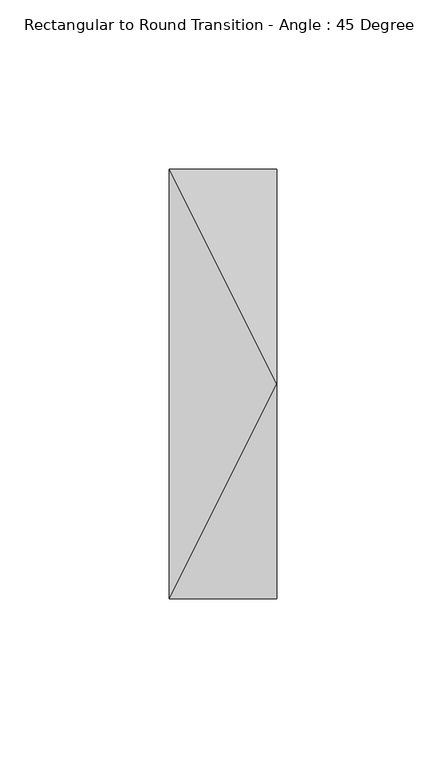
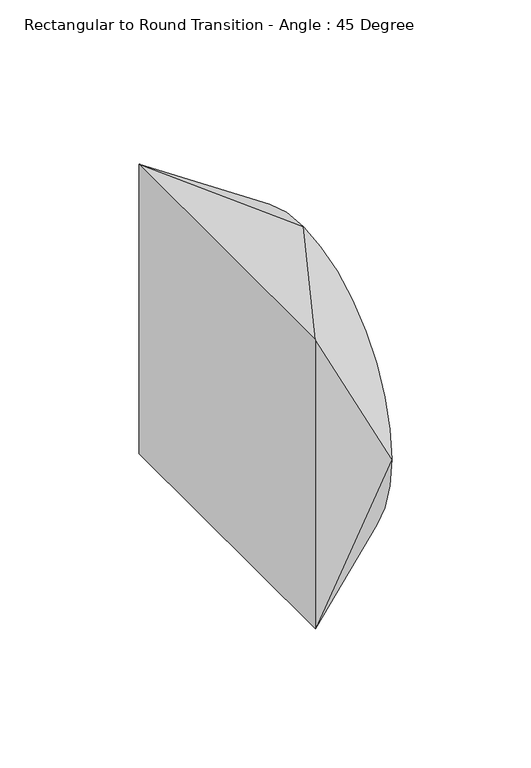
"""IFC4 building model written with IfcOpenShell, lengths in millimetres: duct fitting geometry, Rectangular to Round Transition - Angle : 45 Degree."""

from ifc_helpers import new_model, si_unit, frame, origin, place, context, project, spatial, circle_curve, source, transform, mapped, element, save
from ifc_brep_helpers import plane_surface, spline_surface, advanced_brep


def rectangular_to_round_transition_angle_45_degree_d16902a5(model_context):
    return source(origin(), model_context, "Body", "AdvancedBrep", [
        advanced_brep(
        [(31.75, 0.0, 63.5), (31.75, -63.5, 0.0), (31.75, 0.0, -63.5), (31.75, 63.5, 0.0), (0.0, -63.5, 63.5), (0.0, 63.5, 63.5), (0.0, 63.5, -63.5), (0.0, -63.5, -63.5)],
        [
            (0, 1, circle_curve(frame((31.75, 0.0, 0.0), z_axis=(1.0, 0.0, 0.0), x_axis=(0.0, 1.0, 0.0)), 63.5)),
            (1, 2, circle_curve(frame((31.75, 0.0, 0.0), z_axis=(1.0, 0.0, 0.0), x_axis=(0.0, 1.0, 0.0)), 63.5)),
            (2, 3, circle_curve(frame((31.75, 0.0, 0.0), z_axis=(1.0, 0.0, 0.0), x_axis=(0.0, 1.0, 0.0)), 63.5)),
            (3, 0, circle_curve(frame((31.75, 0.0, 0.0), z_axis=(1.0, 0.0, 0.0), x_axis=(0.0, 1.0, 0.0)), 63.5)),
            (4, 5),
            (5, 6),
            (6, 7),
            (7, 4),
            (0, 4),
            (4, 1),
            (7, 1),
            (7, 2),
            (6, 2),
            (6, 3),
            (5, 3),
            (5, 0),
        ],
        [
            plane_surface(frame((31.75, 0.0, 0.0), z_axis=(1.0, 0.0, 0.0), x_axis=(0.0, 0.0, -1.0))),
            plane_surface(frame((0.0, 0.0, 0.0), z_axis=(-1.0, 0.0, 0.0), x_axis=(0.0, 0.0, -1.0))),
            spline_surface(2, 1, [[(0.0, -63.5, 63.5), (31.75, 0.0, 63.5)], [(0.0, -63.5, 63.5), (31.75, -63.5, 63.5)], [(0.0, -63.5, 63.5), (31.75, -63.5, 0.0)]], [3, 3], [2, 2], [0.0, 1.0], [0.0, 1.0], weights=[[1.0, 1.0], [0.7071067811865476, 0.7071067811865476], [1.0, 1.0]]),
            plane_surface(frame((0.0, -63.5, 0.0), z_axis=(0.0, -1.0, 0.0), x_axis=(0.0, 0.0, -1.0))),
            spline_surface(2, 1, [[(0.0, -63.5, -63.5), (31.75, -63.5, 0.0)], [(0.0, -63.5, -63.5), (31.75, -63.5, -63.5)], [(0.0, -63.5, -63.5), (31.75, 0.0, -63.5)]], [3, 3], [2, 2], [0.0, 1.0], [0.0, 1.0], weights=[[1.0, 1.0], [0.7071067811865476, 0.7071067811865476], [1.0, 1.0]]),
            plane_surface(frame((0.0, 0.0, -63.5), z_axis=(0.0, 0.0, -1.0), x_axis=(0.0, 1.0, 0.0))),
            spline_surface(2, 1, [[(0.0, 63.5, -63.5), (31.75, 0.0, -63.5)], [(0.0, 63.5, -63.5), (31.75, 63.5, -63.5)], [(0.0, 63.5, -63.5), (31.75, 63.5, 0.0)]], [3, 3], [2, 2], [0.0, 1.0], [0.0, 1.0], weights=[[1.0, 1.0], [0.7071067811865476, 0.7071067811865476], [1.0, 1.0]]),
            plane_surface(frame((0.0, 63.5, 0.0), z_axis=(0.0, 1.0, 0.0), x_axis=(0.0, 0.0, 1.0))),
            spline_surface(2, 1, [[(0.0, 63.5, 63.5), (31.75, 63.5, 0.0)], [(0.0, 63.5, 63.5), (31.75, 63.5, 63.5)], [(0.0, 63.5, 63.5), (31.75, 0.0, 63.5)]], [3, 3], [2, 2], [0.0, 1.0], [0.0, 1.0], weights=[[1.0, 1.0], [0.7071067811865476, 0.7071067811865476], [1.0, 1.0]]),
            plane_surface(frame((0.0, 0.0, 63.5), z_axis=(0.0, 0.0, 1.0), x_axis=(0.0, -1.0, 0.0))),
        ],
        [
            (0, [[1, 2, 3, 4]]),
            (1, [[5, 6, 7, 8]]),
            (2, [[-1, 9, 10]]),
            (3, [[-8, 11, -10]]),
            (4, [[-2, -11, 12]]),
            (5, [[-7, 13, -12]]),
            (6, [[-3, -13, 14]]),
            (7, [[-6, 15, -14]]),
            (8, [[-4, -15, 16]]),
            (9, [[-5, -9, -16]]),
        ],
    ),
    ])


if __name__ == "__main__":
    model = new_model("IFC4")
    model_context = context("Model", 3, world=origin())
    ifc_project = project(units=[si_unit("LENGTHUNIT", "METRE", prefix="MILLI")], contexts=[model_context])
    site = spatial("IfcSite", under=ifc_project)
    building = spatial("IfcBuilding", under=site)
    placement = place(None, origin())
    rectangular_to_round_transition_angle_45_degree_shape = rectangular_to_round_transition_angle_45_degree_d16902a5(model_context)
    element("IfcDuctFitting", 1, ObjectType="Rectangular to Round Transition - Angle : 45 Degree", at=placement, inside=building, context=model_context, shape_type="MappedRepresentation", body=[
        mapped(rectangular_to_round_transition_angle_45_degree_shape, transform((0.0, 0.0, 0.0), x_axis=(1.0, 0.0, 0.0), y_axis=(0.0, 1.0, 0.0), z_axis=(0.0, 0.0, 1.0))),
    ])
    save(model, "model.ifc")
